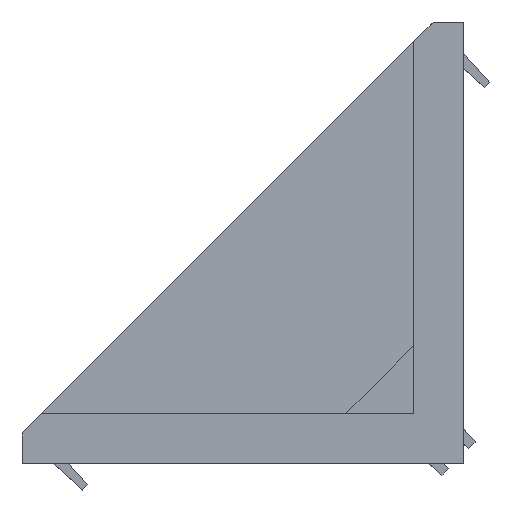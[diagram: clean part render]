
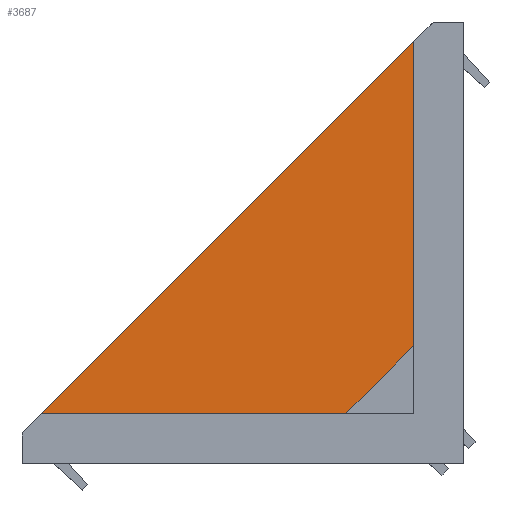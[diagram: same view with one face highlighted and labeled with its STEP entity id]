
A CAD part, top view. The second image highlights one B-rep face of the part: STEP entity #3687.
In plain terms, the highlighted planar face has unit normal (-0.012, 0.012, 1).
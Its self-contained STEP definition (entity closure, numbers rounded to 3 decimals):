
#177=PLANE('',#3928);
#293=FACE_OUTER_BOUND('',#495,.T.);
#495=EDGE_LOOP('',(#2569,#2570,#2571));
#699=LINE('',#5391,#1064);
#721=LINE('',#5456,#1086);
#737=LINE('',#5497,#1102);
#1064=VECTOR('',#4294,10.);
#1086=VECTOR('',#4348,10.);
#1102=VECTOR('',#4380,1000.);
#1546=VERTEX_POINT('',#5377);
#1552=VERTEX_POINT('',#5389);
#1579=VERTEX_POINT('',#5455);
#1925=EDGE_CURVE('',#1546,#1552,#699,.F.);
#1957=EDGE_CURVE('',#1579,#1546,#721,.F.);
#1979=EDGE_CURVE('',#1579,#1552,#737,.T.);
#2569=ORIENTED_EDGE('',*,*,#1979,.F.);
#2570=ORIENTED_EDGE('',*,*,#1957,.T.);
#2571=ORIENTED_EDGE('',*,*,#1925,.T.);
#3687=ADVANCED_FACE('',(#293),#177,.T.);
#3928=AXIS2_PLACEMENT_3D('',#5496,#4378,#4379);
#4294=DIRECTION('',(0.,-1.,0.012));
#4348=DIRECTION('',(-1.,0.,-0.012));
#4378=DIRECTION('center_axis',(-0.012,0.012,1.));
#4379=DIRECTION('ref_axis',(1.,0.,0.012));
#4380=DIRECTION('',(0.707,0.707,0.));
#5377=CARTESIAN_POINT('',(-8.,8.,-12.167));
#5389=CARTESIAN_POINT('',(-8.,75.5,-13.));
#5391=CARTESIAN_POINT('',(-8.,48.023,-12.661));
#5455=CARTESIAN_POINT('',(-75.5,8.,-13.));
#5456=CARTESIAN_POINT('',(-42.978,8.,-12.599));
#5496=CARTESIAN_POINT('Origin',(-76.,7.5,-13.));
#5497=CARTESIAN_POINT('',(-76.,7.5,-13.));
